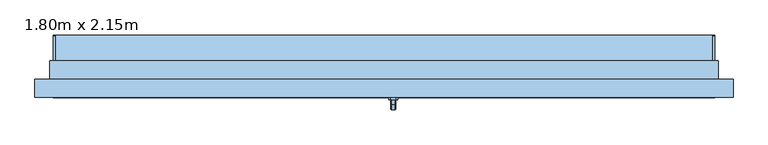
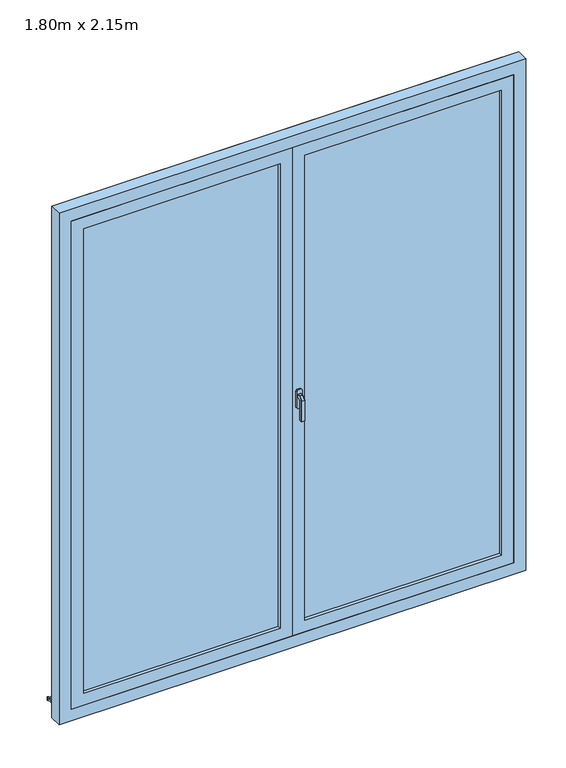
"""IFC4 building model written with IfcOpenShell, lengths in millimetres: window geometry, PF 2 Vantaux - Droits : 1.80m x 2.15m."""

import ifcopenshell
import ifcopenshell.guid

model = None  # the IFC model being written
_history = None  # IfcOwnerHistory: only IFC2X3 demands one
_inside = {}  # id of a spatial element -> (the spatial element, [elements in it])
_under = {}  # id of a project, library or spatial element -> (it, [spatial elements below it])
_declared = {}  # id of a project -> (the project, [libraries it declares])
_typed = {}  # id of a type object -> (the type object, [elements of that type])
_made_of = {}  # id of a material, layer set ... -> (it, [elements and type objects made of it])


def new_model(schema):
    """Start an empty IFC model of exactly this schema.

    Asked for "IFC4X3", IfcOpenShell would pick the latest addendum, in which some entities
    have other attributes; the version numbers below select the first issue.
    IFC2X3 requires an IfcOwnerHistory on every rooted entity: one is made here for all.
    """
    global model, _history
    if schema == "IFC4X3":
        model = ifcopenshell.file(schema_version=(4, 3, 0, 0))
    else:
        model = ifcopenshell.file(schema=schema)
    _inside.clear()
    _under.clear()
    _declared.clear()
    _typed.clear()
    _made_of.clear()
    _history = None
    if model.schema == "IFC2X3":
        org = make("IfcOrganization", Name="unknown")
        user = make(
            "IfcPersonAndOrganization",
            ThePerson=make("IfcPerson", FamilyName="unknown"),
            TheOrganization=org,
        )
        app = make(
            "IfcApplication",
            ApplicationDeveloper=org,
            Version="unknown",
            ApplicationFullName="unknown",
            ApplicationIdentifier="unknown",
        )
        _history = make(
            "IfcOwnerHistory",
            OwningUser=user,
            OwningApplication=app,
            ChangeAction="ADDED",
            CreationDate=0,
        )
    return model


def make(cls, **values):
    """One entity of the class cls with the attributes given. An attribute that is None is left unset."""
    return model.create_entity(
        cls, **{name: value for name, value in values.items() if value is not None}
    )


def rooted(cls, **values):
    """An entity with a GlobalId (a new one), such as an element, a storey or a relation."""
    return make(cls, GlobalId=ifcopenshell.guid.new(), OwnerHistory=_history, **values)


def si_unit(unit_type, name, prefix=None):
    """IfcSIUnit, for example si_unit("LENGTHUNIT", "METRE", prefix="MILLI")."""
    return make("IfcSIUnit", UnitType=unit_type, Prefix=prefix, Name=name)


def assignment(units):
    """IfcUnitAssignment: the units of a project."""
    return None if units is None else make("IfcUnitAssignment", Units=units)


def point(xyz):
    """IfcCartesianPoint."""
    return None if xyz is None else make("IfcCartesianPoint", Coordinates=xyz)


def direction(xyz):
    """IfcDirection."""
    return None if xyz is None else make("IfcDirection", DirectionRatios=xyz)


def frame(location, z_axis=None, x_axis=None):
    """IfcAxis2Placement3D, a coordinate frame: its origin and axes. An axis left out is left unset."""
    return make(
        "IfcAxis2Placement3D",
        Location=point(location),
        Axis=direction(z_axis),
        RefDirection=direction(x_axis),
    )


def frame_2d(location, x_axis=None):
    """IfcAxis2Placement2D, a coordinate frame in the plane: its origin and x axis."""
    return make(
        "IfcAxis2Placement2D", Location=point(location), RefDirection=direction(x_axis)
    )


def origin():
    """The frame at (0, 0, 0) with its axes left unset."""
    return frame((0.0, 0.0, 0.0))


def place(relative_to, where):
    """IfcLocalPlacement: puts the frame where relative to a parent placement (None: the world)."""
    return make(
        "IfcLocalPlacement", PlacementRelTo=relative_to, RelativePlacement=where
    )


def context(
    kind, dimensions, precision=None, world=None, true_north=None, identifier=None
):
    """IfcGeometricRepresentationContext, for example the 3D "Model" context."""
    return make(
        "IfcGeometricRepresentationContext",
        ContextIdentifier=identifier,
        ContextType=kind,
        CoordinateSpaceDimension=dimensions,
        Precision=precision,
        WorldCoordinateSystem=world,
        TrueNorth=true_north,
    )


def project(units=None, contexts=None):
    """IfcProject with its units and contexts."""
    return rooted(
        "IfcProject",
        Name="project",
        RepresentationContexts=contexts,
        UnitsInContext=assignment(units),
    )


def spatial(cls, under=None, at=None, **own):
    """A site, building, storey or space (cls), placed at a placement, below another one or the project."""
    s = rooted(cls, ObjectPlacement=at, **own)
    if under is not None:
        _under.setdefault(under.id(), (under, []))[1].append(s)
    return s


def polyline(points):
    """IfcPolyline through the points."""
    return make("IfcPolyline", Points=[point(p) for p in points])


def circle_curve(where, radius):
    """IfcCircle in the frame where."""
    return make("IfcCircle", Position=where, Radius=radius)


def trimmed(basis, trim1, trim2, sense, master):
    """IfcTrimmedCurve: the piece of a basis curve between two trims."""
    return make(
        "IfcTrimmedCurve",
        BasisCurve=basis,
        Trim1=trim1,
        Trim2=trim2,
        SenseAgreement=sense,
        MasterRepresentation=master,
    )


def segment(curve, same_sense, transition):
    """IfcCompositeCurveSegment."""
    return make(
        "IfcCompositeCurveSegment",
        Transition=transition,
        SameSense=same_sense,
        ParentCurve=curve,
    )


def composite_curve(segments, self_intersect=None):
    """IfcCompositeCurve: segments joined end to end."""
    return make("IfcCompositeCurve", Segments=segments, SelfIntersect=self_intersect)


def outline(outer, holes=None, kind="AREA"):
    """IfcArbitraryClosedProfileDef: a profile drawn as a closed curve; with holes, ...WithVoids."""
    if holes is None:
        return make("IfcArbitraryClosedProfileDef", ProfileType=kind, OuterCurve=outer)
    return make(
        "IfcArbitraryProfileDefWithVoids",
        ProfileType=kind,
        OuterCurve=outer,
        InnerCurves=holes,
    )


def extrude(swept, where, along, depth):
    """IfcExtrudedAreaSolid: the profile swept, set in the frame where, extruded along a direction by depth."""
    return make(
        "IfcExtrudedAreaSolid",
        SweptArea=swept,
        Position=where,
        ExtrudedDirection=direction(along),
        Depth=depth,
    )


def faces_of(points, faces, orient=None, outer=None):
    """IfcFace entities. A face is a list of loops; a loop is a list of indices into points, from 0.

    orient and outer hold one flag for each loop. By default every Orientation is true, the
    first loop of a face is its IfcFaceOuterBound and the others are IfcFaceBound.
    """
    made = []
    for i, loops in enumerate(faces):
        bounds = []
        for j, loop in enumerate(loops):
            is_outer = j == 0 if outer is None else outer[i][j]
            bounds.append(
                make(
                    "IfcFaceOuterBound" if is_outer else "IfcFaceBound",
                    Bound=make("IfcPolyLoop", Polygon=[points[k] for k in loop]),
                    Orientation=True if orient is None else orient[i][j],
                )
            )
        made.append(make("IfcFace", Bounds=bounds))
    return made


def faceted_brep(points, faces, orient=None, outer=None, voids=None):
    """IfcFacetedBrep: a solid bounded by flat faces; with voids (closed shells), ...WithVoids."""
    shared = [point(p) for p in points]
    hull = make("IfcClosedShell", CfsFaces=faces_of(shared, faces, orient, outer))
    if voids is None:
        return make("IfcFacetedBrep", Outer=hull)
    return make(
        "IfcFacetedBrepWithVoids",
        Outer=hull,
        Voids=[
            make(cls, CfsFaces=faces_of(shared, fs, o, b)) for cls, fs, o, b in voids
        ],
    )


def shape(context_of_items, identifier, shape_type, items):
    """IfcShapeRepresentation: the items that make up one representation, for example the "Body"."""
    return make(
        "IfcShapeRepresentation",
        ContextOfItems=context_of_items,
        RepresentationIdentifier=identifier,
        RepresentationType=shape_type,
        Items=items,
    )


def source(mapping_origin, context_of_items, identifier, shape_type, items):
    """IfcRepresentationMap: a shape defined once, which mapped items show again and again."""
    return make(
        "IfcRepresentationMap",
        MappingOrigin=mapping_origin,
        MappedRepresentation=shape(context_of_items, identifier, shape_type, items),
    )


def transform(
    local_origin,
    x_axis=None,
    y_axis=None,
    z_axis=None,
    scale=None,
    scale2=None,
    scale3=None,
    uniform=True,
):
    """IfcCartesianTransformationOperator3D, or its non-uniform kind. x_axis, y_axis, z_axis: its Axis1, 2, 3."""
    if uniform:
        return make(
            "IfcCartesianTransformationOperator3D",
            Axis1=direction(x_axis),
            Axis2=direction(y_axis),
            LocalOrigin=point(local_origin),
            Scale=scale,
            Axis3=direction(z_axis),
        )
    return make(
        "IfcCartesianTransformationOperator3DnonUniform",
        Axis1=direction(x_axis),
        Axis2=direction(y_axis),
        LocalOrigin=point(local_origin),
        Scale=scale,
        Axis3=direction(z_axis),
        Scale2=scale2,
        Scale3=scale3,
    )


def mapped(mapping_source, mapping_target):
    """IfcMappedItem: shows the shape of a source again, moved by a transform."""
    return make(
        "IfcMappedItem", MappingSource=mapping_source, MappingTarget=mapping_target
    )


def made_of(thing, what):
    """Note that an element or type object is made of a material, layer set ...; save() writes the relation."""
    if what is not None:
        _made_of.setdefault(what.id(), (what, []))[1].append(thing)
    return thing


def element(
    cls,
    number,
    at=None,
    inside=None,
    cuts=None,
    type_object=None,
    material=None,
    context=None,
    identifier="Body",
    shape_type=None,
    held_by="IfcProductDefinitionShape",
    body=None,
    shapes=None,
    **own,
):
    """One element of the class cls, such as IfcWall. Its Tag is "e" and its number.

    at: its placement. inside: the storey or other place that contains it. cuts: it is an
    opening in that element (IfcRelVoidsElement). A single representation is given by context,
    identifier, shape_type and body (its items); several are given by shapes. held_by: the class
    of the entity that holds the representations. save() writes the other relations.
    """
    e = rooted(cls, Tag="e%d" % number, ObjectPlacement=at, **own)
    if body is not None:
        shapes = [shape(context, identifier, shape_type, body)]
    if shapes is not None:
        e.Representation = make(held_by, Representations=shapes)
    if inside is not None:
        _inside.setdefault(inside.id(), (inside, []))[1].append(e)
    if cuts is not None:
        rooted(
            "IfcRelVoidsElement", RelatingBuildingElement=cuts, RelatedOpeningElement=e
        )
    if type_object is not None:
        _typed.setdefault(type_object.id(), (type_object, []))[1].append(e)
    return made_of(e, material)


def aggregate(whole, parts):
    """IfcRelAggregates: a whole, such as a stair, and the parts it consists of."""
    return rooted("IfcRelAggregates", RelatingObject=whole, RelatedObjects=parts)


def save(model, path):
    """Write the relations noted so far, then the file.

    IfcRelAggregates (storeys below a building ...), IfcRelContainedInSpatialStructure (elements
    in a storey), IfcRelDefinesByType, IfcRelAssociatesMaterial and IfcRelDeclares: one each for
    every whole, place, type object, material and project.
    """
    for whole, parts in _under.values():
        aggregate(whole, parts)
    for where, things in _inside.values():
        rooted(
            "IfcRelContainedInSpatialStructure",
            RelatedElements=things,
            RelatingStructure=where,
        )
    for kind, things in _typed.values():
        rooted("IfcRelDefinesByType", RelatedObjects=things, RelatingType=kind)
    for what, things in _made_of.values():
        rooted("IfcRelAssociatesMaterial", RelatedObjects=things, RelatingMaterial=what)
    for by, libraries in _declared.values():
        rooted("IfcRelDeclares", RelatingContext=by, RelatedDefinitions=libraries)
    model.write(path)


def window_1_80m_x_2_15m_7d3a4370(model_context):
    return source(origin(), model_context, "Body", "SolidModel", [
        faceted_brep([(30.6460097, -86.0, 1122.0339292), (32.0339292, -86.0, 1120.6460097), (32.0339292, -86.0, 1109.3323012), (30.6676988, -86.0, 1107.9660708), (19.3323012, -86.0, 1107.9660708), (17.9660708, -86.0, 1109.3323012), (17.9660708, -86.0, 1120.6460097), (19.3539903, -86.0, 1122.0339292), (30.6460097, -98.9135489, 1122.0339292), (32.0339292, -98.3386538, 1120.6460097), (32.0339292, -111.6460097, 1107.3386538), (32.0339292, -111.6460097, 1020.0), (32.0339292, -100.3323012, 1020.0), (32.0339292, -100.3323012, 1102.6523623), (32.0339292, -93.6523623, 1109.3323012), (30.6676988, -93.0864511, 1107.9660708), (19.3323012, -93.0864511, 1107.9660708), (17.9660708, -93.6523623, 1109.3323012), (17.9660708, -100.3323012, 1102.6523623), (17.9660708, -100.3323012, 1020.0), (17.9660708, -111.6460097, 1020.0), (17.9660708, -111.6460097, 1107.3386538), (17.9660708, -98.3386538, 1120.6460097), (19.3539903, -98.9135489, 1122.0339292), (30.6460097, -113.0339292, 1107.9135489), (30.6676988, -98.9660708, 1102.0864511), (19.3323012, -98.9660708, 1102.0864511), (19.3539903, -113.0339292, 1107.9135489), (30.6460097, -113.0339292, 1020.0), (19.3539903, -113.0339292, 1020.0), (19.3323012, -98.9660708, 1020.0), (30.6676988, -98.9660708, 1020.0)], [[[0, 1, 2, 3, 4, 5, 6, 7]], [[1, 0, 8, 9]], [[2, 1, 9, 10, 11, 12, 13, 14]], [[3, 2, 14, 15]], [[4, 3, 15, 16]], [[5, 4, 16, 17]], [[6, 5, 17, 18, 19, 20, 21, 22]], [[7, 6, 22, 23]], [[0, 7, 23, 8]], [[9, 8, 24, 10]], [[15, 14, 13, 25]], [[16, 15, 25, 26]], [[17, 16, 26, 18]], [[23, 22, 21, 27]], [[8, 23, 27, 24]], [[28, 29, 20, 19, 30, 31, 12, 11]], [[10, 24, 28, 11]], [[25, 13, 12, 31]], [[26, 25, 31, 30]], [[18, 26, 30, 19]], [[27, 21, 20, 29]], [[24, 27, 29, 28]]]),
        extrude(outline(polyline([(1140.0, 32.0), (1140.0, 18.0), (1135.0, 13.0), (1065.0, 13.0), (1060.0, 18.0), (1060.0, 32.0), (1065.0, 37.0), (1135.0, 37.0), (1140.0, 32.0)])), frame((0.0, -86.0, 0.0), z_axis=(0.0, 1.0, 0.0), x_axis=(0.0, 0.0, 1.0)), (0.0, 0.0, 1.0), 6.0),
        extrude(outline(polyline([(90.0288776, 30.7927954), (90.0288776, 19.7145929), (85.0288776, 20.2401141), (85.0288776, 26.0631048), (0.0, 35.0), (0.0, 50.0), (5.0, 50.0), (5.0, 39.7296906), (90.0288776, 30.7927954)])), frame((-900.0, 0.0, 0.0), z_axis=(1.0, 0.0, 0.0), x_axis=(0.0, 1.0, 0.0)), (0.0, 0.0, 1.0), 1800.0),
        extrude(outline(composite_curve([segment(polyline([(90.0288776, 30.7927954), (5.0, 39.7296906), (5.0, 44.757232), (86.4469915, 36.1968082)]), True, "CONTINUOUS"), segment(trimmed(circle_curve(frame_2d((86.0288776, 32.2187207)), 4.0), [point((86.4469915, 36.1968082))], [point((90.0288776, 32.2187207))], False, "CARTESIAN"), True, "CONTINUOUS"), segment(polyline([(90.0288776, 32.2187207), (90.0288776, 30.7927954)]), True, "CONTINUOUS")], self_intersect=False)), frame((-900.0, 0.0, 0.0), z_axis=(1.0, 0.0, 0.0), x_axis=(0.0, 1.0, 0.0)), (0.0, 0.0, 1.0), 5.0),
        extrude(outline(composite_curve([segment(polyline([(90.0288776, 30.7927954), (5.0, 39.7296906), (5.0, 44.757232), (86.4469915, 36.1968082)]), True, "CONTINUOUS"), segment(trimmed(circle_curve(frame_2d((86.0288776, 32.2187207)), 4.0), [point((86.4469915, 36.1968082))], [point((90.0288776, 32.2187207))], False, "CARTESIAN"), True, "CONTINUOUS"), segment(polyline([(90.0288776, 32.2187207), (90.0288776, 30.7927954)]), True, "CONTINUOUS")], self_intersect=False)), frame((895.0, 0.0, 0.0), z_axis=(1.0, 0.0, 0.0), x_axis=(0.0, 1.0, 0.0)), (0.0, 0.0, 1.0), 5.0),
        extrude(outline(polyline([(85.0, 0.0), (2185.0, 0.0), (2185.0, -900.0), (85.0, -900.0), (85.0, 0.0)]), holes=[polyline([(135.0, -850.0), (2135.0, -850.0), (2135.0, -50.0), (135.0, -50.0), (135.0, -850.0)])]), frame((0.0, -80.0, 0.0), z_axis=(0.0, 1.0, 0.0), x_axis=(0.0, 0.0, 1.0)), (0.0, 0.0, 1.0), 40.0),
        extrude(outline(polyline([(50.0, -54.0), (850.0, -54.0), (850.0, -66.0), (50.0, -66.0), (50.0, -54.0)])), frame((0.0, 0.0, 135.0), z_axis=(0.0, 0.0, 1.0), x_axis=(1.0, 0.0, 0.0)), (0.0, 0.0, 1.0), 2000.0),
        extrude(outline(polyline([(-850.0, -54.0), (-50.0, -54.0), (-50.0, -66.0), (-850.0, -66.0), (-850.0, -54.0)])), frame((0.0, 0.0, 135.0), z_axis=(0.0, 0.0, 1.0), x_axis=(1.0, 0.0, 0.0)), (0.0, 0.0, 1.0), 2000.0),
        extrude(outline(polyline([(85.0, 900.0), (2185.0, 900.0), (2185.0, 0.0), (85.0, 0.0), (85.0, 900.0)]), holes=[polyline([(135.0, 50.0), (2135.0, 50.0), (2135.0, 850.0), (135.0, 850.0), (135.0, 50.0)])]), frame((0.0, -80.0, 0.0), z_axis=(0.0, 1.0, 0.0), x_axis=(0.0, 0.0, 1.0)), (0.0, 0.0, 1.0), 40.0),
        faceted_brep([(-950.0, -80.0, 35.0), (-950.0, -30.0, 35.0), (-900.0, -30.0, 35.0), (-900.0, 0.0, 35.0), (900.0, 0.0, 35.0), (900.0, -30.0, 35.0), (950.0, -30.0, 35.0), (950.0, -80.0, 35.0), (-950.0, -80.0, 2235.0), (-950.0, -30.0, 2235.0), (950.0, -30.0, 2235.0), (900.0, -30.0, 74.3761425), (-900.0, -30.0, 74.3761425), (-885.0, -30.0, 2170.0), (-885.0, -30.0, 100.0), (885.0, -30.0, 100.0), (885.0, -30.0, 2170.0), (-900.0, 20.0, 60.9786829), (-900.0, 20.0, 45.0), (-900.0, 10.0, 45.0), (-900.0, 10.0, 50.0), (-900.0, 0.0, 50.0), (900.0, 0.0, 50.0), (900.0, 10.0, 50.0), (900.0, 10.0, 45.0), (900.0, 20.0, 45.0), (900.0, 20.0, 60.9786829), (950.0, -80.0, 2235.0), (900.0, -80.0, 2185.0), (900.0, -80.0, 85.0), (-900.0, -80.0, 85.0), (-900.0, -80.0, 2185.0), (-885.0, -40.0, 2170.0), (-885.0, -40.0, 100.0), (885.0, -40.0, 100.0), (885.0, -40.0, 2170.0), (900.0, -40.0, 2185.0), (-900.0, -40.0, 2185.0), (-900.0, -40.0, 85.0), (900.0, -40.0, 85.0)], [[[0, 1, 2, 3, 4, 5, 6, 7]], [[1, 0, 8, 9]], [[1, 9, 10, 6, 5, 11, 12, 2], [13, 14, 15, 16]], [[12, 17, 18, 19, 20, 21, 3, 2]], [[3, 21, 22, 4]], [[4, 22, 23, 24, 25, 26, 11, 5]], [[6, 10, 27, 7]], [[0, 7, 27, 8], [28, 29, 30, 31]], [[13, 32, 33, 14]], [[33, 34, 15, 14]], [[35, 16, 15, 34]], [[17, 12, 11, 26]], [[36, 37, 38, 39], [32, 35, 34, 33]], [[38, 37, 31, 30]], [[30, 29, 39, 38]], [[28, 36, 39, 29]], [[18, 17, 26, 25]], [[19, 18, 25, 24]], [[20, 19, 24, 23]], [[21, 20, 23, 22]], [[13, 16, 35, 32]], [[37, 36, 28, 31]], [[10, 9, 8, 27]]]),
        extrude(outline(polyline([(35.0, -910.0), (35.0, -900.0), (2185.0, -900.0), (2185.0, 900.0), (35.0, 900.0), (35.0, 910.0), (2195.0, 910.0), (2195.0, -910.0), (35.0, -910.0)])), frame((0.0, -30.0, 0.0), z_axis=(0.0, 1.0, 0.0), x_axis=(0.0, 0.0, 1.0)), (0.0, 0.0, 1.0), 50.0),
        extrude(outline(polyline([(20.0, -32.0), (20.0, -40.0), (-20.0, -40.0), (-20.0, -32.0), (20.0, -32.0)])), frame((0.0, 0.0, 100.0), z_axis=(0.0, 0.0, 1.0), x_axis=(1.0, 0.0, 0.0)), (0.0, 0.0, 1.0), 2070.0),
    ])


if __name__ == "__main__":
    model = new_model("IFC4")
    model_context = context("Model", 3, world=origin())
    ifc_project = project(units=[si_unit("LENGTHUNIT", "METRE", prefix="MILLI")], contexts=[model_context])
    site = spatial("IfcSite", under=ifc_project)
    building = spatial("IfcBuilding", under=site)
    placement = place(None, origin())
    window_1_80m_x_2_15m_shape = window_1_80m_x_2_15m_7d3a4370(model_context)
    element("IfcWindow", 1, ObjectType="PF 2 Vantaux - Droits : 1.80m x 2.15m", at=placement, inside=building, context=model_context, shape_type="MappedRepresentation", body=[
        mapped(window_1_80m_x_2_15m_shape, transform((0.0, 0.0, 0.0), x_axis=(1.0, 0.0, 0.0), y_axis=(0.0, 1.0, 0.0), z_axis=(0.0, 0.0, 1.0))),
    ])
    save(model, "model.ifc")
